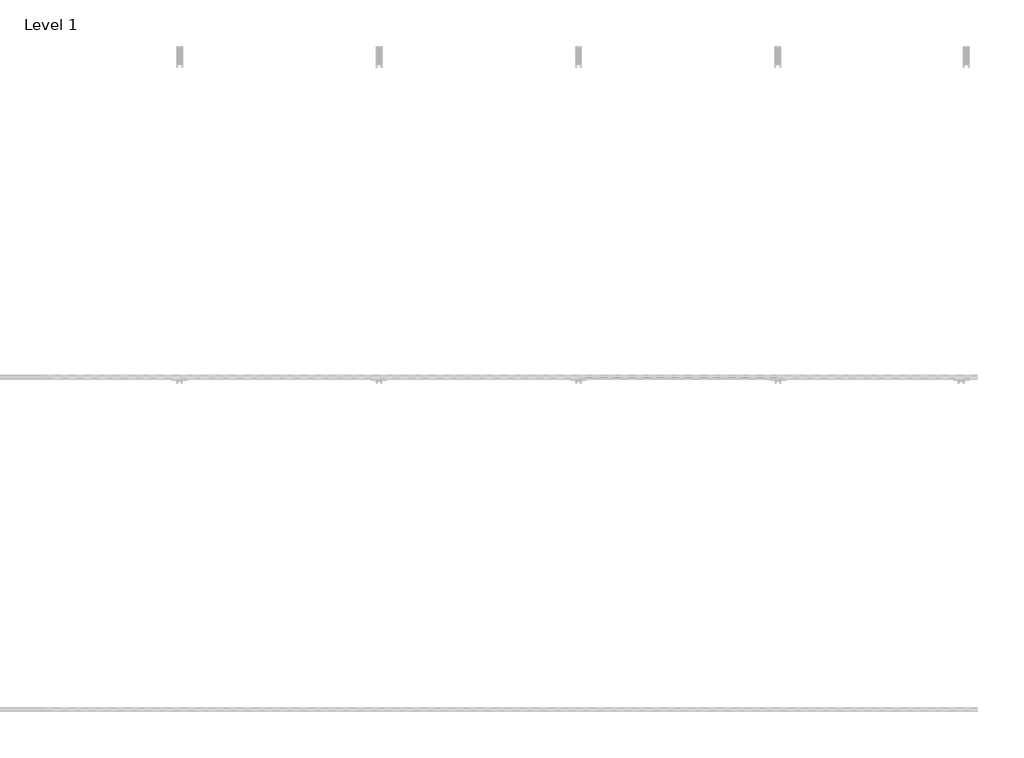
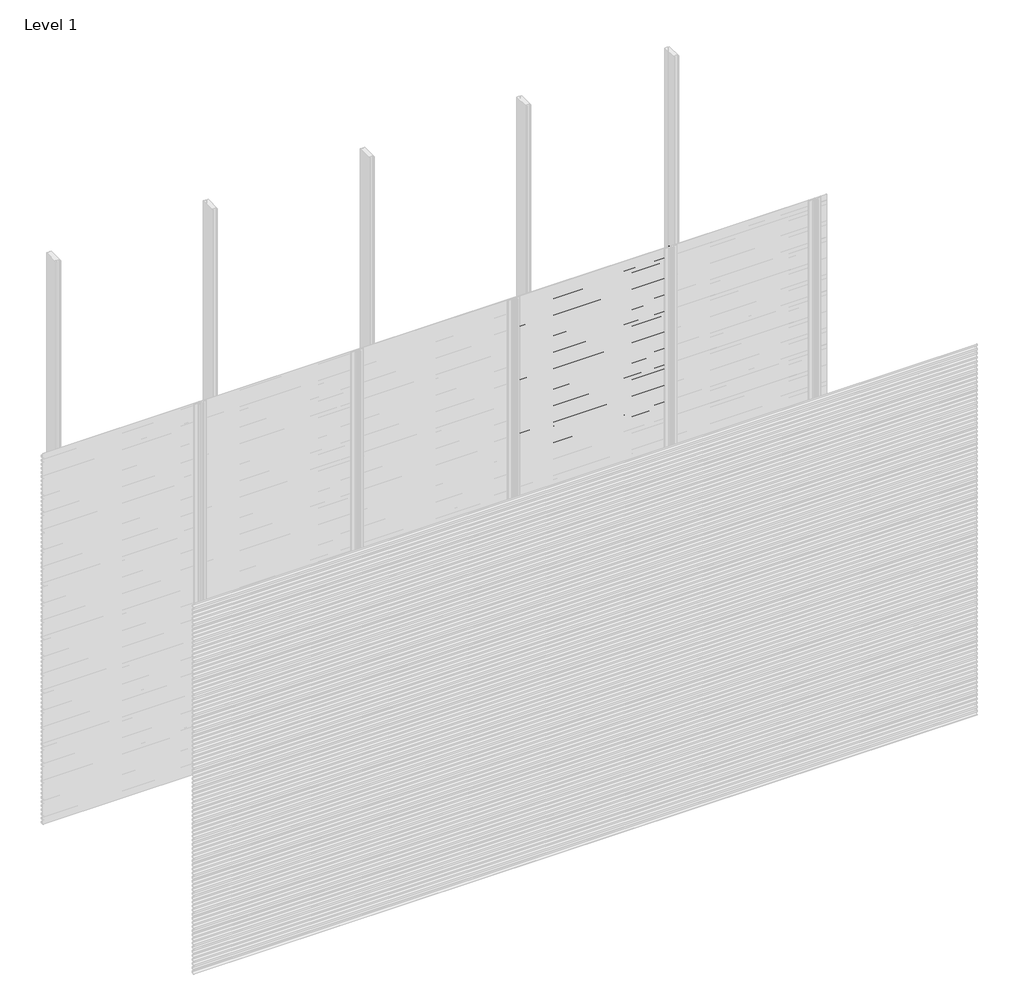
# One storey, part 8 of 77: 72 proxies.
"""IFC4 building model written with IfcOpenShell, lengths in millimetres."""

from ifc_helpers import new_model, si_unit, frame, origin, place, context, project, spatial, polyline, outline, extrude, element, save

model = new_model("IFC4")

# Units and contexts
model_context = context("Model", 3, world=origin())
ifc_project = project(units=[si_unit("LENGTHUNIT", "METRE", prefix="MILLI")], contexts=[model_context])

# Site, building, storey
site = spatial("IfcSite", under=ifc_project)
building = spatial("IfcBuilding", under=site)
storey = spatial("IfcBuildingStorey", under=building, Name="Level 1", Elevation=0.0)

# Proxies
placement = place(None, origin())
element("IfcBuildingElementProxy", 1, Name="Wall Sweeps", at=placement, inside=storey, context=model_context, shape_type="SweptSolid", body=[
    extrude(outline(polyline([(-53978.6, 1007.8359887), (-53998.0, 1019.0366691), (-53998.0, 1032.3), (-53997.0, 1032.3), (-53997.0, 1019.6191057), (-53977.6, 1008.4185105), (-53977.6, 994.8185105), (-53978.6, 996.3953129), (-53978.6, 1002.2032062), (-53995.9773817, 994.1), (-53996.4, 995.0063078), (-53978.6, 1003.3065841), (-53978.6, 1007.8359887)])), frame((2400.0, 0.0, 0.0), z_axis=(1.0, 0.0, 0.0), x_axis=(0.0, 1.0, 0.0)), (0.0, 0.0, 1.0), 1200.0),
])
element("IfcBuildingElementProxy", 2, Name="Wall Sweeps", at=placement, inside=storey, context=model_context, shape_type="SweptSolid", body=[
    extrude(outline(polyline([(-53978.6, 974.5359887), (-53998.0, 985.7366691), (-53998.0, 999.0), (-53997.0, 999.0), (-53997.0, 986.3191057), (-53977.6, 975.1185105), (-53977.6, 961.5185105), (-53978.6, 963.0953129), (-53978.6, 968.9032062), (-53995.9773817, 960.8), (-53996.4, 961.7063078), (-53978.6, 970.0065841), (-53978.6, 974.5359887)])), frame((2400.0, 0.0, 0.0), z_axis=(1.0, 0.0, 0.0), x_axis=(0.0, 1.0, 0.0)), (0.0, 0.0, 1.0), 1200.0),
])
element("IfcBuildingElementProxy", 3, Name="Wall Sweeps", at=placement, inside=storey, context=model_context, shape_type="SweptSolid", body=[
    extrude(outline(polyline([(-53978.6, 941.2359887), (-53998.0, 952.4366691), (-53998.0, 965.7), (-53997.0, 965.7), (-53997.0, 953.0191057), (-53977.6, 941.8185105), (-53977.6, 928.2185105), (-53978.6, 929.7953129), (-53978.6, 935.6032062), (-53995.9773817, 927.5), (-53996.4, 928.4063078), (-53978.6, 936.7065841), (-53978.6, 941.2359887)])), frame((2400.0, 0.0, 0.0), z_axis=(1.0, 0.0, 0.0), x_axis=(0.0, 1.0, 0.0)), (0.0, 0.0, 1.0), 1200.0),
])
element("IfcBuildingElementProxy", 4, Name="Wall Sweeps", at=placement, inside=storey, context=model_context, shape_type="SweptSolid", body=[
    extrude(outline(polyline([(-53978.6, 907.9359887), (-53998.0, 919.1366691), (-53998.0, 932.4), (-53997.0, 932.4), (-53997.0, 919.7191057), (-53977.6, 908.5185105), (-53977.6, 894.9185105), (-53978.6, 896.4953129), (-53978.6, 902.3032062), (-53995.9773817, 894.2), (-53996.4, 895.1063078), (-53978.6, 903.4065841), (-53978.6, 907.9359887)])), frame((2400.0, 0.0, 0.0), z_axis=(1.0, 0.0, 0.0), x_axis=(0.0, 1.0, 0.0)), (0.0, 0.0, 1.0), 1200.0),
])
element("IfcBuildingElementProxy", 5, Name="Wall Sweeps", at=placement, inside=storey, context=model_context, shape_type="SweptSolid", body=[
    extrude(outline(polyline([(-53978.6, 874.6359887), (-53998.0, 885.8366691), (-53998.0, 899.1), (-53997.0, 899.1), (-53997.0, 886.4191057), (-53977.6, 875.2185105), (-53977.6, 861.6185105), (-53978.6, 863.1953129), (-53978.6, 869.0032062), (-53995.9773817, 860.9), (-53996.4, 861.8063078), (-53978.6, 870.1065841), (-53978.6, 874.6359887)])), frame((2400.0, 0.0, 0.0), z_axis=(1.0, 0.0, 0.0), x_axis=(0.0, 1.0, 0.0)), (0.0, 0.0, 1.0), 1200.0),
])
element("IfcBuildingElementProxy", 6, Name="Wall Sweeps", at=placement, inside=storey, context=model_context, shape_type="SweptSolid", body=[
    extrude(outline(polyline([(-53978.6, 841.3359887), (-53998.0, 852.5366691), (-53998.0, 865.8), (-53997.0, 865.8), (-53997.0, 853.1191057), (-53977.6, 841.9185105), (-53977.6, 828.3185105), (-53978.6, 829.8953129), (-53978.6, 835.7032062), (-53995.9773817, 827.6), (-53996.4, 828.5063078), (-53978.6, 836.8065841), (-53978.6, 841.3359887)])), frame((2400.0, 0.0, 0.0), z_axis=(1.0, 0.0, 0.0), x_axis=(0.0, 1.0, 0.0)), (0.0, 0.0, 1.0), 1200.0),
])
element("IfcBuildingElementProxy", 7, Name="Wall Sweeps", at=placement, inside=storey, context=model_context, shape_type="SweptSolid", body=[
    extrude(outline(polyline([(-53978.6, 808.0359887), (-53998.0, 819.2366691), (-53998.0, 832.5), (-53997.0, 832.5), (-53997.0, 819.8191057), (-53977.6, 808.6185105), (-53977.6, 795.0185105), (-53978.6, 796.5953129), (-53978.6, 802.4032062), (-53995.9773817, 794.3), (-53996.4, 795.2063078), (-53978.6, 803.5065841), (-53978.6, 808.0359887)])), frame((2400.0, 0.0, 0.0), z_axis=(1.0, 0.0, 0.0), x_axis=(0.0, 1.0, 0.0)), (0.0, 0.0, 1.0), 1200.0),
])
element("IfcBuildingElementProxy", 8, Name="Wall Sweeps", at=placement, inside=storey, context=model_context, shape_type="SweptSolid", body=[
    extrude(outline(polyline([(-53978.6, 774.7359887), (-53998.0, 785.9366691), (-53998.0, 799.2), (-53997.0, 799.2), (-53997.0, 786.5191057), (-53977.6, 775.3185105), (-53977.6, 761.7185105), (-53978.6, 763.2953129), (-53978.6, 769.1032062), (-53995.9773817, 761.0), (-53996.4, 761.9063078), (-53978.6, 770.2065841), (-53978.6, 774.7359887)])), frame((2400.0, 0.0, 0.0), z_axis=(1.0, 0.0, 0.0), x_axis=(0.0, 1.0, 0.0)), (0.0, 0.0, 1.0), 1200.0),
])
element("IfcBuildingElementProxy", 9, Name="Wall Sweeps", at=placement, inside=storey, context=model_context, shape_type="SweptSolid", body=[
    extrude(outline(polyline([(-53978.6, 741.4359887), (-53998.0, 752.6366691), (-53998.0, 765.9), (-53997.0, 765.9), (-53997.0, 753.2191057), (-53977.6, 742.0185105), (-53977.6, 728.4185105), (-53978.6, 729.9953129), (-53978.6, 735.8032062), (-53995.9773817, 727.7), (-53996.4, 728.6063078), (-53978.6, 736.9065841), (-53978.6, 741.4359887)])), frame((2400.0, 0.0, 0.0), z_axis=(1.0, 0.0, 0.0), x_axis=(0.0, 1.0, 0.0)), (0.0, 0.0, 1.0), 1200.0),
])
element("IfcBuildingElementProxy", 10, Name="Wall Sweeps", at=placement, inside=storey, context=model_context, shape_type="SweptSolid", body=[
    extrude(outline(polyline([(-53978.6, 708.1359887), (-53998.0, 719.3366691), (-53998.0, 732.6), (-53997.0, 732.6), (-53997.0, 719.9191057), (-53977.6, 708.7185105), (-53977.6, 695.1185105), (-53978.6, 696.6953129), (-53978.6, 702.5032062), (-53995.9773817, 694.4), (-53996.4, 695.3063078), (-53978.6, 703.6065841), (-53978.6, 708.1359887)])), frame((2400.0, 0.0, 0.0), z_axis=(1.0, 0.0, 0.0), x_axis=(0.0, 1.0, 0.0)), (0.0, 0.0, 1.0), 1200.0),
])
element("IfcBuildingElementProxy", 11, Name="Wall Sweeps", at=placement, inside=storey, context=model_context, shape_type="SweptSolid", body=[
    extrude(outline(polyline([(-53978.6, 674.8359887), (-53998.0, 686.0366691), (-53998.0, 699.3), (-53997.0, 699.3), (-53997.0, 686.6191057), (-53977.6, 675.4185105), (-53977.6, 661.8185105), (-53978.6, 663.3953129), (-53978.6, 669.2032062), (-53995.9773817, 661.1), (-53996.4, 662.0063078), (-53978.6, 670.3065841), (-53978.6, 674.8359887)])), frame((2400.0, 0.0, 0.0), z_axis=(1.0, 0.0, 0.0), x_axis=(0.0, 1.0, 0.0)), (0.0, 0.0, 1.0), 1200.0),
])
element("IfcBuildingElementProxy", 12, Name="Wall Sweeps", at=placement, inside=storey, context=model_context, shape_type="SweptSolid", body=[
    extrude(outline(polyline([(-53978.6, 641.5359887), (-53998.0, 652.7366691), (-53998.0, 666.0), (-53997.0, 666.0), (-53997.0, 653.3191057), (-53977.6, 642.1185105), (-53977.6, 628.5185105), (-53978.6, 630.0953129), (-53978.6, 635.9032062), (-53995.9773817, 627.8), (-53996.4, 628.7063078), (-53978.6, 637.0065841), (-53978.6, 641.5359887)])), frame((2400.0, 0.0, 0.0), z_axis=(1.0, 0.0, 0.0), x_axis=(0.0, 1.0, 0.0)), (0.0, 0.0, 1.0), 1200.0),
])
element("IfcBuildingElementProxy", 13, Name="Wall Sweeps", at=placement, inside=storey, context=model_context, shape_type="SweptSolid", body=[
    extrude(outline(polyline([(-53978.6, 608.2359887), (-53998.0, 619.4366691), (-53998.0, 632.7), (-53997.0, 632.7), (-53997.0, 620.0191057), (-53977.6, 608.8185105), (-53977.6, 595.2185105), (-53978.6, 596.7953129), (-53978.6, 602.6032062), (-53995.9773817, 594.5), (-53996.4, 595.4063078), (-53978.6, 603.7065841), (-53978.6, 608.2359887)])), frame((2400.0, 0.0, 0.0), z_axis=(1.0, 0.0, 0.0), x_axis=(0.0, 1.0, 0.0)), (0.0, 0.0, 1.0), 1200.0),
])
element("IfcBuildingElementProxy", 14, Name="Wall Sweeps", at=placement, inside=storey, context=model_context, shape_type="SweptSolid", body=[
    extrude(outline(polyline([(-53978.6, 574.9359887), (-53998.0, 586.1366691), (-53998.0, 599.4), (-53997.0, 599.4), (-53997.0, 586.7191057), (-53977.6, 575.5185105), (-53977.6, 561.9185105), (-53978.6, 563.4953129), (-53978.6, 569.3032062), (-53995.9773817, 561.2), (-53996.4, 562.1063078), (-53978.6, 570.4065841), (-53978.6, 574.9359887)])), frame((2400.0, 0.0, 0.0), z_axis=(1.0, 0.0, 0.0), x_axis=(0.0, 1.0, 0.0)), (0.0, 0.0, 1.0), 1200.0),
])
element("IfcBuildingElementProxy", 15, Name="Wall Sweeps", at=placement, inside=storey, context=model_context, shape_type="SweptSolid", body=[
    extrude(outline(polyline([(-53978.6, 541.6359887), (-53998.0, 552.8366691), (-53998.0, 566.1), (-53997.0, 566.1), (-53997.0, 553.4191057), (-53977.6, 542.2185105), (-53977.6, 528.6185105), (-53978.6, 530.1953129), (-53978.6, 536.0032062), (-53995.9773817, 527.9), (-53996.4, 528.8063078), (-53978.6, 537.1065841), (-53978.6, 541.6359887)])), frame((2400.0, 0.0, 0.0), z_axis=(1.0, 0.0, 0.0), x_axis=(0.0, 1.0, 0.0)), (0.0, 0.0, 1.0), 1200.0),
])
element("IfcBuildingElementProxy", 16, Name="Wall Sweeps", at=placement, inside=storey, context=model_context, shape_type="SweptSolid", body=[
    extrude(outline(polyline([(-53978.6, 508.3359887), (-53998.0, 519.5366691), (-53998.0, 532.8), (-53997.0, 532.8), (-53997.0, 520.1191057), (-53977.6, 508.9185105), (-53977.6, 495.3185105), (-53978.6, 496.8953129), (-53978.6, 502.7032062), (-53995.9773817, 494.6), (-53996.4, 495.5063078), (-53978.6, 503.8065841), (-53978.6, 508.3359887)])), frame((2400.0, 0.0, 0.0), z_axis=(1.0, 0.0, 0.0), x_axis=(0.0, 1.0, 0.0)), (0.0, 0.0, 1.0), 1200.0),
])
element("IfcBuildingElementProxy", 17, Name="Wall Sweeps", at=placement, inside=storey, context=model_context, shape_type="SweptSolid", body=[
    extrude(outline(polyline([(-53978.6, 475.0359887), (-53998.0, 486.2366691), (-53998.0, 499.5), (-53997.0, 499.5), (-53997.0, 486.8191057), (-53977.6, 475.6185105), (-53977.6, 462.0185105), (-53978.6, 463.5953129), (-53978.6, 469.4032062), (-53995.9773817, 461.3), (-53996.4, 462.2063078), (-53978.6, 470.5065841), (-53978.6, 475.0359887)])), frame((2400.0, 0.0, 0.0), z_axis=(1.0, 0.0, 0.0), x_axis=(0.0, 1.0, 0.0)), (0.0, 0.0, 1.0), 1200.0),
])
element("IfcBuildingElementProxy", 18, Name="Wall Sweeps", at=placement, inside=storey, context=model_context, shape_type="SweptSolid", body=[
    extrude(outline(polyline([(-53978.6, 441.7359887), (-53998.0, 452.9366691), (-53998.0, 466.2), (-53997.0, 466.2), (-53997.0, 453.5191057), (-53977.6, 442.3185105), (-53977.6, 428.7185105), (-53978.6, 430.2953129), (-53978.6, 436.1032062), (-53995.9773817, 428.0), (-53996.4, 428.9063078), (-53978.6, 437.2065841), (-53978.6, 441.7359887)])), frame((2400.0, 0.0, 0.0), z_axis=(1.0, 0.0, 0.0), x_axis=(0.0, 1.0, 0.0)), (0.0, 0.0, 1.0), 1200.0),
])
element("IfcBuildingElementProxy", 19, Name="Wall Sweeps", at=placement, inside=storey, context=model_context, shape_type="SweptSolid", body=[
    extrude(outline(polyline([(-53978.6, 408.4359887), (-53998.0, 419.6366691), (-53998.0, 432.9), (-53997.0, 432.9), (-53997.0, 420.2191057), (-53977.6, 409.0185105), (-53977.6, 395.4185105), (-53978.6, 396.9953129), (-53978.6, 402.8032062), (-53995.9773817, 394.7), (-53996.4, 395.6063078), (-53978.6, 403.9065841), (-53978.6, 408.4359887)])), frame((2400.0, 0.0, 0.0), z_axis=(1.0, 0.0, 0.0), x_axis=(0.0, 1.0, 0.0)), (0.0, 0.0, 1.0), 1200.0),
])
element("IfcBuildingElementProxy", 20, Name="Wall Sweeps", at=placement, inside=storey, context=model_context, shape_type="SweptSolid", body=[
    extrude(outline(polyline([(-53978.6, 375.1359887), (-53998.0, 386.3366691), (-53998.0, 399.6), (-53997.0, 399.6), (-53997.0, 386.9191057), (-53977.6, 375.7185105), (-53977.6, 362.1185105), (-53978.6, 363.6953129), (-53978.6, 369.5032062), (-53995.9773817, 361.4), (-53996.4, 362.3063078), (-53978.6, 370.6065841), (-53978.6, 375.1359887)])), frame((2400.0, 0.0, 0.0), z_axis=(1.0, 0.0, 0.0), x_axis=(0.0, 1.0, 0.0)), (0.0, 0.0, 1.0), 1200.0),
])
element("IfcBuildingElementProxy", 21, Name="Wall Sweeps", at=placement, inside=storey, context=model_context, shape_type="SweptSolid", body=[
    extrude(outline(polyline([(-53978.6, 341.8359887), (-53998.0, 353.0366691), (-53998.0, 366.3), (-53997.0, 366.3), (-53997.0, 353.6191057), (-53977.6, 342.4185105), (-53977.6, 328.8185105), (-53978.6, 330.3953129), (-53978.6, 336.2032062), (-53995.9773817, 328.1), (-53996.4, 329.0063078), (-53978.6, 337.3065841), (-53978.6, 341.8359887)])), frame((2400.0, 0.0, 0.0), z_axis=(1.0, 0.0, 0.0), x_axis=(0.0, 1.0, 0.0)), (0.0, 0.0, 1.0), 1200.0),
])
element("IfcBuildingElementProxy", 22, Name="Wall Sweeps", at=placement, inside=storey, context=model_context, shape_type="SweptSolid", body=[
    extrude(outline(polyline([(-53978.6, 308.5359887), (-53998.0, 319.7366691), (-53998.0, 333.0), (-53997.0, 333.0), (-53997.0, 320.3191057), (-53977.6, 309.1185105), (-53977.6, 295.5185105), (-53978.6, 297.0953129), (-53978.6, 302.9032062), (-53995.9773817, 294.8), (-53996.4, 295.7063078), (-53978.6, 304.0065841), (-53978.6, 308.5359887)])), frame((2400.0, 0.0, 0.0), z_axis=(1.0, 0.0, 0.0), x_axis=(0.0, 1.0, 0.0)), (0.0, 0.0, 1.0), 1200.0),
])
element("IfcBuildingElementProxy", 23, Name="Wall Sweeps", at=placement, inside=storey, context=model_context, shape_type="SweptSolid", body=[
    extrude(outline(polyline([(-53978.6, 275.2359887), (-53998.0, 286.4366691), (-53998.0, 299.7), (-53997.0, 299.7), (-53997.0, 287.0191057), (-53977.6, 275.8185105), (-53977.6, 262.2185105), (-53978.6, 263.7953129), (-53978.6, 269.6032062), (-53995.9773817, 261.5), (-53996.4, 262.4063078), (-53978.6, 270.7065841), (-53978.6, 275.2359887)])), frame((2400.0, 0.0, 0.0), z_axis=(1.0, 0.0, 0.0), x_axis=(0.0, 1.0, 0.0)), (0.0, 0.0, 1.0), 1200.0),
])
element("IfcBuildingElementProxy", 24, Name="Wall Sweeps", at=placement, inside=storey, context=model_context, shape_type="SweptSolid", body=[
    extrude(outline(polyline([(-53978.6, 241.9359887), (-53998.0, 253.1366691), (-53998.0, 266.4), (-53997.0, 266.4), (-53997.0, 253.7191057), (-53977.6, 242.5185105), (-53977.6, 228.9185105), (-53978.6, 230.4953129), (-53978.6, 236.3032062), (-53995.9773817, 228.2), (-53996.4, 229.1063078), (-53978.6, 237.4065841), (-53978.6, 241.9359887)])), frame((2400.0, 0.0, 0.0), z_axis=(1.0, 0.0, 0.0), x_axis=(0.0, 1.0, 0.0)), (0.0, 0.0, 1.0), 1200.0),
])
element("IfcBuildingElementProxy", 25, Name="Wall Sweeps", at=placement, inside=storey, context=model_context, shape_type="SweptSolid", body=[
    extrude(outline(polyline([(-53978.6, 208.6359887), (-53998.0, 219.8366691), (-53998.0, 233.1), (-53997.0, 233.1), (-53997.0, 220.4191057), (-53977.6, 209.2185105), (-53977.6, 195.6185105), (-53978.6, 197.1953129), (-53978.6, 203.0032062), (-53995.9773817, 194.9), (-53996.4, 195.8063078), (-53978.6, 204.1065841), (-53978.6, 208.6359887)])), frame((2400.0, 0.0, 0.0), z_axis=(1.0, 0.0, 0.0), x_axis=(0.0, 1.0, 0.0)), (0.0, 0.0, 1.0), 1200.0),
])
element("IfcBuildingElementProxy", 26, Name="Wall Sweeps", at=placement, inside=storey, context=model_context, shape_type="SweptSolid", body=[
    extrude(outline(polyline([(-53978.6, 175.3359887), (-53998.0, 186.5366691), (-53998.0, 199.8), (-53997.0, 199.8), (-53997.0, 187.1191057), (-53977.6, 175.9185105), (-53977.6, 162.3185105), (-53978.6, 163.8953129), (-53978.6, 169.7032062), (-53995.9773817, 161.6), (-53996.4, 162.5063078), (-53978.6, 170.8065841), (-53978.6, 175.3359887)])), frame((2400.0, 0.0, 0.0), z_axis=(1.0, 0.0, 0.0), x_axis=(0.0, 1.0, 0.0)), (0.0, 0.0, 1.0), 1200.0),
])
element("IfcBuildingElementProxy", 27, Name="Wall Sweeps", at=placement, inside=storey, context=model_context, shape_type="SweptSolid", body=[
    extrude(outline(polyline([(-53978.6, 142.0359887), (-53998.0, 153.2366691), (-53998.0, 166.5), (-53997.0, 166.5), (-53997.0, 153.8191057), (-53977.6, 142.6185105), (-53977.6, 129.0185105), (-53978.6, 130.5953129), (-53978.6, 136.4032062), (-53995.9773817, 128.3), (-53996.4, 129.2063078), (-53978.6, 137.5065841), (-53978.6, 142.0359887)])), frame((2400.0, 0.0, 0.0), z_axis=(1.0, 0.0, 0.0), x_axis=(0.0, 1.0, 0.0)), (0.0, 0.0, 1.0), 1200.0),
])
element("IfcBuildingElementProxy", 28, Name="Wall Sweeps", at=placement, inside=storey, context=model_context, shape_type="SweptSolid", body=[
    extrude(outline(polyline([(-53978.6, 108.7359887), (-53998.0, 119.9366691), (-53998.0, 133.2), (-53997.0, 133.2), (-53997.0, 120.5191057), (-53977.6, 109.3185105), (-53977.6, 95.7185105), (-53978.6, 97.2953129), (-53978.6, 103.1032062), (-53995.9773817, 95.0), (-53996.4, 95.9063078), (-53978.6, 104.2065841), (-53978.6, 108.7359887)])), frame((2400.0, 0.0, 0.0), z_axis=(1.0, 0.0, 0.0), x_axis=(0.0, 1.0, 0.0)), (0.0, 0.0, 1.0), 1200.0),
])
element("IfcBuildingElementProxy", 29, Name="Wall Sweeps", at=placement, inside=storey, context=model_context, shape_type="SweptSolid", body=[
    extrude(outline(polyline([(-53978.6, 75.4359887), (-53998.0, 86.6366691), (-53998.0, 99.9), (-53997.0, 99.9), (-53997.0, 87.2191057), (-53977.6, 76.0185105), (-53977.6, 62.4185105), (-53978.6, 63.9953129), (-53978.6, 69.8032062), (-53995.9773817, 61.7), (-53996.4, 62.6063078), (-53978.6, 70.9065841), (-53978.6, 75.4359887)])), frame((2400.0, 0.0, 0.0), z_axis=(1.0, 0.0, 0.0), x_axis=(0.0, 1.0, 0.0)), (0.0, 0.0, 1.0), 1200.0),
])
element("IfcBuildingElementProxy", 30, Name="Wall Sweeps", at=placement, inside=storey, context=model_context, shape_type="SweptSolid", body=[
    extrude(outline(polyline([(-53978.6, 42.1359887), (-53998.0, 53.3366691), (-53998.0, 66.6), (-53997.0, 66.6), (-53997.0, 53.9191057), (-53977.6, 42.7185105), (-53977.6, 29.1185105), (-53978.6, 30.6953129), (-53978.6, 36.5032062), (-53995.9773817, 28.4), (-53996.4, 29.3063078), (-53978.6, 37.6065841), (-53978.6, 42.1359887)])), frame((2400.0, 0.0, 0.0), z_axis=(1.0, 0.0, 0.0), x_axis=(0.0, 1.0, 0.0)), (0.0, 0.0, 1.0), 1200.0),
])
element("IfcBuildingElementProxy", 31, Name="Wall Sweeps", at=placement, inside=storey, context=model_context, shape_type="SweptSolid", body=[
    extrude(outline(polyline([(-53978.6, 8.8359887), (-53998.0, 20.0366691), (-53998.0, 33.3), (-53997.0, 33.3), (-53997.0, 20.6191057), (-53977.6, 9.4185105), (-53977.6, -4.1814895), (-53978.6, -2.6046871), (-53978.6, 3.2032062), (-53995.9773817, -4.9), (-53996.4, -3.9936922), (-53978.6, 4.3065841), (-53978.6, 8.8359887)])), frame((2400.0, 0.0, 0.0), z_axis=(1.0, 0.0, 0.0), x_axis=(0.0, 1.0, 0.0)), (0.0, 0.0, 1.0), 1200.0),
])
element("IfcBuildingElementProxy", 32, Name="Wall Sweeps", at=placement, inside=storey, context=model_context, shape_type="SweptSolid", body=[
    extrude(outline(polyline([(-53978.6, 2972.5359887), (-53998.0, 2983.7366691), (-53998.0, 2997.0), (-53997.0, 2997.0), (-53997.0, 2984.3191057), (-53977.6, 2973.1185105), (-53977.6, 2959.5185105), (-53978.6, 2961.0953129), (-53978.6, 2966.9032062), (-53995.9773817, 2958.8), (-53996.4, 2959.7063078), (-53978.6, 2968.0065841), (-53978.6, 2972.5359887)])), frame((3600.0, 0.0, 0.0), z_axis=(1.0, 0.0, 0.0), x_axis=(0.0, 1.0, 0.0)), (0.0, 0.0, 1.0), 1200.0),
])
element("IfcBuildingElementProxy", 33, Name="Wall Sweeps", at=placement, inside=storey, context=model_context, shape_type="SweptSolid", body=[
    extrude(outline(polyline([(-53978.6, 2939.2359887), (-53998.0, 2950.4366691), (-53998.0, 2963.7), (-53997.0, 2963.7), (-53997.0, 2951.0191057), (-53977.6, 2939.8185105), (-53977.6, 2926.2185105), (-53978.6, 2927.7953129), (-53978.6, 2933.6032062), (-53995.9773817, 2925.5), (-53996.4, 2926.4063078), (-53978.6, 2934.7065841), (-53978.6, 2939.2359887)])), frame((3600.0, 0.0, 0.0), z_axis=(1.0, 0.0, 0.0), x_axis=(0.0, 1.0, 0.0)), (0.0, 0.0, 1.0), 1200.0),
])
element("IfcBuildingElementProxy", 34, Name="Wall Sweeps", at=placement, inside=storey, context=model_context, shape_type="SweptSolid", body=[
    extrude(outline(polyline([(-53978.6, 2905.9359887), (-53998.0, 2917.1366691), (-53998.0, 2930.4), (-53997.0, 2930.4), (-53997.0, 2917.7191057), (-53977.6, 2906.5185105), (-53977.6, 2892.9185105), (-53978.6, 2894.4953129), (-53978.6, 2900.3032062), (-53995.9773817, 2892.2), (-53996.4, 2893.1063078), (-53978.6, 2901.4065841), (-53978.6, 2905.9359887)])), frame((3600.0, 0.0, 0.0), z_axis=(1.0, 0.0, 0.0), x_axis=(0.0, 1.0, 0.0)), (0.0, 0.0, 1.0), 1200.0),
])
element("IfcBuildingElementProxy", 35, Name="Wall Sweeps", at=placement, inside=storey, context=model_context, shape_type="SweptSolid", body=[
    extrude(outline(polyline([(-53978.6, 2872.6359887), (-53998.0, 2883.8366691), (-53998.0, 2897.1), (-53997.0, 2897.1), (-53997.0, 2884.4191057), (-53977.6, 2873.2185105), (-53977.6, 2859.6185105), (-53978.6, 2861.1953129), (-53978.6, 2867.0032062), (-53995.9773817, 2858.9), (-53996.4, 2859.8063078), (-53978.6, 2868.1065841), (-53978.6, 2872.6359887)])), frame((3600.0, 0.0, 0.0), z_axis=(1.0, 0.0, 0.0), x_axis=(0.0, 1.0, 0.0)), (0.0, 0.0, 1.0), 1200.0),
])
element("IfcBuildingElementProxy", 36, Name="Wall Sweeps", at=placement, inside=storey, context=model_context, shape_type="SweptSolid", body=[
    extrude(outline(polyline([(-53978.6, 2839.3359887), (-53998.0, 2850.5366691), (-53998.0, 2863.8), (-53997.0, 2863.8), (-53997.0, 2851.1191057), (-53977.6, 2839.9185105), (-53977.6, 2826.3185105), (-53978.6, 2827.8953129), (-53978.6, 2833.7032062), (-53995.9773817, 2825.6), (-53996.4, 2826.5063078), (-53978.6, 2834.8065841), (-53978.6, 2839.3359887)])), frame((3600.0, 0.0, 0.0), z_axis=(1.0, 0.0, 0.0), x_axis=(0.0, 1.0, 0.0)), (0.0, 0.0, 1.0), 1200.0),
])
element("IfcBuildingElementProxy", 37, Name="Wall Sweeps", at=placement, inside=storey, context=model_context, shape_type="SweptSolid", body=[
    extrude(outline(polyline([(-53978.6, 2806.0359887), (-53998.0, 2817.2366691), (-53998.0, 2830.5), (-53997.0, 2830.5), (-53997.0, 2817.8191057), (-53977.6, 2806.6185105), (-53977.6, 2793.0185105), (-53978.6, 2794.5953129), (-53978.6, 2800.4032062), (-53995.9773817, 2792.3), (-53996.4, 2793.2063078), (-53978.6, 2801.5065841), (-53978.6, 2806.0359887)])), frame((3600.0, 0.0, 0.0), z_axis=(1.0, 0.0, 0.0), x_axis=(0.0, 1.0, 0.0)), (0.0, 0.0, 1.0), 1200.0),
])
element("IfcBuildingElementProxy", 38, Name="Wall Sweeps", at=placement, inside=storey, context=model_context, shape_type="SweptSolid", body=[
    extrude(outline(polyline([(-53978.6, 2772.7359887), (-53998.0, 2783.9366691), (-53998.0, 2797.2), (-53997.0, 2797.2), (-53997.0, 2784.5191057), (-53977.6, 2773.3185105), (-53977.6, 2759.7185105), (-53978.6, 2761.2953129), (-53978.6, 2767.1032062), (-53995.9773817, 2759.0), (-53996.4, 2759.9063078), (-53978.6, 2768.2065841), (-53978.6, 2772.7359887)])), frame((3600.0, 0.0, 0.0), z_axis=(1.0, 0.0, 0.0), x_axis=(0.0, 1.0, 0.0)), (0.0, 0.0, 1.0), 1200.0),
])
element("IfcBuildingElementProxy", 39, Name="Wall Sweeps", at=placement, inside=storey, context=model_context, shape_type="SweptSolid", body=[
    extrude(outline(polyline([(-53978.6, 2739.4359887), (-53998.0, 2750.6366691), (-53998.0, 2763.9), (-53997.0, 2763.9), (-53997.0, 2751.2191057), (-53977.6, 2740.0185105), (-53977.6, 2726.4185105), (-53978.6, 2727.9953129), (-53978.6, 2733.8032062), (-53995.9773817, 2725.7), (-53996.4, 2726.6063078), (-53978.6, 2734.9065841), (-53978.6, 2739.4359887)])), frame((3600.0, 0.0, 0.0), z_axis=(1.0, 0.0, 0.0), x_axis=(0.0, 1.0, 0.0)), (0.0, 0.0, 1.0), 1200.0),
])
element("IfcBuildingElementProxy", 40, Name="Wall Sweeps", at=placement, inside=storey, context=model_context, shape_type="SweptSolid", body=[
    extrude(outline(polyline([(-53978.6, 2706.1359887), (-53998.0, 2717.3366691), (-53998.0, 2730.6), (-53997.0, 2730.6), (-53997.0, 2717.9191057), (-53977.6, 2706.7185105), (-53977.6, 2693.1185105), (-53978.6, 2694.6953129), (-53978.6, 2700.5032062), (-53995.9773817, 2692.4), (-53996.4, 2693.3063078), (-53978.6, 2701.6065841), (-53978.6, 2706.1359887)])), frame((3600.0, 0.0, 0.0), z_axis=(1.0, 0.0, 0.0), x_axis=(0.0, 1.0, 0.0)), (0.0, 0.0, 1.0), 1200.0),
])
element("IfcBuildingElementProxy", 41, Name="Wall Sweeps", at=placement, inside=storey, context=model_context, shape_type="SweptSolid", body=[
    extrude(outline(polyline([(-53978.6, 2672.8359887), (-53998.0, 2684.0366691), (-53998.0, 2697.3), (-53997.0, 2697.3), (-53997.0, 2684.6191057), (-53977.6, 2673.4185105), (-53977.6, 2659.8185105), (-53978.6, 2661.3953129), (-53978.6, 2667.2032062), (-53995.9773817, 2659.1), (-53996.4, 2660.0063078), (-53978.6, 2668.3065841), (-53978.6, 2672.8359887)])), frame((3600.0, 0.0, 0.0), z_axis=(1.0, 0.0, 0.0), x_axis=(0.0, 1.0, 0.0)), (0.0, 0.0, 1.0), 1200.0),
])
element("IfcBuildingElementProxy", 42, Name="Wall Sweeps", at=placement, inside=storey, context=model_context, shape_type="SweptSolid", body=[
    extrude(outline(polyline([(-53978.6, 2639.5359887), (-53998.0, 2650.7366691), (-53998.0, 2664.0), (-53997.0, 2664.0), (-53997.0, 2651.3191057), (-53977.6, 2640.1185105), (-53977.6, 2626.5185105), (-53978.6, 2628.0953129), (-53978.6, 2633.9032062), (-53995.9773817, 2625.8), (-53996.4, 2626.7063078), (-53978.6, 2635.0065841), (-53978.6, 2639.5359887)])), frame((3600.0, 0.0, 0.0), z_axis=(1.0, 0.0, 0.0), x_axis=(0.0, 1.0, 0.0)), (0.0, 0.0, 1.0), 1200.0),
])
element("IfcBuildingElementProxy", 43, Name="Wall Sweeps", at=placement, inside=storey, context=model_context, shape_type="SweptSolid", body=[
    extrude(outline(polyline([(-53978.6, 2606.2359887), (-53998.0, 2617.4366691), (-53998.0, 2630.7), (-53997.0, 2630.7), (-53997.0, 2618.0191057), (-53977.6, 2606.8185105), (-53977.6, 2593.2185105), (-53978.6, 2594.7953129), (-53978.6, 2600.6032062), (-53995.9773817, 2592.5), (-53996.4, 2593.4063078), (-53978.6, 2601.7065841), (-53978.6, 2606.2359887)])), frame((3600.0, 0.0, 0.0), z_axis=(1.0, 0.0, 0.0), x_axis=(0.0, 1.0, 0.0)), (0.0, 0.0, 1.0), 1200.0),
])
element("IfcBuildingElementProxy", 44, Name="Wall Sweeps", at=placement, inside=storey, context=model_context, shape_type="SweptSolid", body=[
    extrude(outline(polyline([(-53978.6, 2572.9359887), (-53998.0, 2584.1366691), (-53998.0, 2597.4), (-53997.0, 2597.4), (-53997.0, 2584.7191057), (-53977.6, 2573.5185105), (-53977.6, 2559.9185105), (-53978.6, 2561.4953129), (-53978.6, 2567.3032062), (-53995.9773817, 2559.2), (-53996.4, 2560.1063078), (-53978.6, 2568.4065841), (-53978.6, 2572.9359887)])), frame((3600.0, 0.0, 0.0), z_axis=(1.0, 0.0, 0.0), x_axis=(0.0, 1.0, 0.0)), (0.0, 0.0, 1.0), 1200.0),
])
element("IfcBuildingElementProxy", 45, Name="Wall Sweeps", at=placement, inside=storey, context=model_context, shape_type="SweptSolid", body=[
    extrude(outline(polyline([(-53978.6, 2539.6359887), (-53998.0, 2550.8366691), (-53998.0, 2564.1), (-53997.0, 2564.1), (-53997.0, 2551.4191057), (-53977.6, 2540.2185105), (-53977.6, 2526.6185105), (-53978.6, 2528.1953129), (-53978.6, 2534.0032062), (-53995.9773817, 2525.9), (-53996.4, 2526.8063078), (-53978.6, 2535.1065841), (-53978.6, 2539.6359887)])), frame((3600.0, 0.0, 0.0), z_axis=(1.0, 0.0, 0.0), x_axis=(0.0, 1.0, 0.0)), (0.0, 0.0, 1.0), 1200.0),
])
element("IfcBuildingElementProxy", 46, Name="Wall Sweeps", at=placement, inside=storey, context=model_context, shape_type="SweptSolid", body=[
    extrude(outline(polyline([(-53978.6, 2506.3359887), (-53998.0, 2517.5366691), (-53998.0, 2530.8), (-53997.0, 2530.8), (-53997.0, 2518.1191057), (-53977.6, 2506.9185105), (-53977.6, 2493.3185105), (-53978.6, 2494.8953129), (-53978.6, 2500.7032062), (-53995.9773817, 2492.6), (-53996.4, 2493.5063078), (-53978.6, 2501.8065841), (-53978.6, 2506.3359887)])), frame((3600.0, 0.0, 0.0), z_axis=(1.0, 0.0, 0.0), x_axis=(0.0, 1.0, 0.0)), (0.0, 0.0, 1.0), 1200.0),
])
element("IfcBuildingElementProxy", 47, Name="Wall Sweeps", at=placement, inside=storey, context=model_context, shape_type="SweptSolid", body=[
    extrude(outline(polyline([(-53978.6, 2473.0359887), (-53998.0, 2484.2366691), (-53998.0, 2497.5), (-53997.0, 2497.5), (-53997.0, 2484.8191057), (-53977.6, 2473.6185105), (-53977.6, 2460.0185105), (-53978.6, 2461.5953129), (-53978.6, 2467.4032062), (-53995.9773817, 2459.3), (-53996.4, 2460.2063078), (-53978.6, 2468.5065841), (-53978.6, 2473.0359887)])), frame((3600.0, 0.0, 0.0), z_axis=(1.0, 0.0, 0.0), x_axis=(0.0, 1.0, 0.0)), (0.0, 0.0, 1.0), 1200.0),
])
element("IfcBuildingElementProxy", 48, Name="Wall Sweeps", at=placement, inside=storey, context=model_context, shape_type="SweptSolid", body=[
    extrude(outline(polyline([(-53978.6, 2439.7359887), (-53998.0, 2450.9366691), (-53998.0, 2464.2), (-53997.0, 2464.2), (-53997.0, 2451.5191057), (-53977.6, 2440.3185105), (-53977.6, 2426.7185105), (-53978.6, 2428.2953129), (-53978.6, 2434.1032062), (-53995.9773817, 2426.0), (-53996.4, 2426.9063078), (-53978.6, 2435.2065841), (-53978.6, 2439.7359887)])), frame((3600.0, 0.0, 0.0), z_axis=(1.0, 0.0, 0.0), x_axis=(0.0, 1.0, 0.0)), (0.0, 0.0, 1.0), 1200.0),
])
element("IfcBuildingElementProxy", 49, Name="Wall Sweeps", at=placement, inside=storey, context=model_context, shape_type="SweptSolid", body=[
    extrude(outline(polyline([(-53978.6, 2406.4359887), (-53998.0, 2417.6366691), (-53998.0, 2430.9), (-53997.0, 2430.9), (-53997.0, 2418.2191057), (-53977.6, 2407.0185105), (-53977.6, 2393.4185105), (-53978.6, 2394.9953129), (-53978.6, 2400.8032062), (-53995.9773817, 2392.7), (-53996.4, 2393.6063078), (-53978.6, 2401.9065841), (-53978.6, 2406.4359887)])), frame((3600.0, 0.0, 0.0), z_axis=(1.0, 0.0, 0.0), x_axis=(0.0, 1.0, 0.0)), (0.0, 0.0, 1.0), 1200.0),
])
element("IfcBuildingElementProxy", 50, Name="Wall Sweeps", at=placement, inside=storey, context=model_context, shape_type="SweptSolid", body=[
    extrude(outline(polyline([(-53978.6, 2373.1359887), (-53998.0, 2384.3366691), (-53998.0, 2397.6), (-53997.0, 2397.6), (-53997.0, 2384.9191057), (-53977.6, 2373.7185105), (-53977.6, 2360.1185105), (-53978.6, 2361.6953129), (-53978.6, 2367.5032062), (-53995.9773817, 2359.4), (-53996.4, 2360.3063078), (-53978.6, 2368.6065841), (-53978.6, 2373.1359887)])), frame((3600.0, 0.0, 0.0), z_axis=(1.0, 0.0, 0.0), x_axis=(0.0, 1.0, 0.0)), (0.0, 0.0, 1.0), 1200.0),
])
element("IfcBuildingElementProxy", 51, Name="Wall Sweeps", at=placement, inside=storey, context=model_context, shape_type="SweptSolid", body=[
    extrude(outline(polyline([(-53978.6, 2339.8359887), (-53998.0, 2351.0366691), (-53998.0, 2364.3), (-53997.0, 2364.3), (-53997.0, 2351.6191057), (-53977.6, 2340.4185105), (-53977.6, 2326.8185105), (-53978.6, 2328.3953129), (-53978.6, 2334.2032062), (-53995.9773817, 2326.1), (-53996.4, 2327.0063078), (-53978.6, 2335.3065841), (-53978.6, 2339.8359887)])), frame((3600.0, 0.0, 0.0), z_axis=(1.0, 0.0, 0.0), x_axis=(0.0, 1.0, 0.0)), (0.0, 0.0, 1.0), 1200.0),
])
element("IfcBuildingElementProxy", 52, Name="Wall Sweeps", at=placement, inside=storey, context=model_context, shape_type="SweptSolid", body=[
    extrude(outline(polyline([(-53978.6, 2306.5359887), (-53998.0, 2317.7366691), (-53998.0, 2331.0), (-53997.0, 2331.0), (-53997.0, 2318.3191057), (-53977.6, 2307.1185105), (-53977.6, 2293.5185105), (-53978.6, 2295.0953129), (-53978.6, 2300.9032062), (-53995.9773817, 2292.8), (-53996.4, 2293.7063078), (-53978.6, 2302.0065841), (-53978.6, 2306.5359887)])), frame((3600.0, 0.0, 0.0), z_axis=(1.0, 0.0, 0.0), x_axis=(0.0, 1.0, 0.0)), (0.0, 0.0, 1.0), 1200.0),
])
element("IfcBuildingElementProxy", 53, Name="Wall Sweeps", at=placement, inside=storey, context=model_context, shape_type="SweptSolid", body=[
    extrude(outline(polyline([(-53978.6, 2273.2359887), (-53998.0, 2284.4366691), (-53998.0, 2297.7), (-53997.0, 2297.7), (-53997.0, 2285.0191057), (-53977.6, 2273.8185105), (-53977.6, 2260.2185105), (-53978.6, 2261.7953129), (-53978.6, 2267.6032062), (-53995.9773817, 2259.5), (-53996.4, 2260.4063078), (-53978.6, 2268.7065841), (-53978.6, 2273.2359887)])), frame((3600.0, 0.0, 0.0), z_axis=(1.0, 0.0, 0.0), x_axis=(0.0, 1.0, 0.0)), (0.0, 0.0, 1.0), 1200.0),
])
element("IfcBuildingElementProxy", 54, Name="Wall Sweeps", at=placement, inside=storey, context=model_context, shape_type="SweptSolid", body=[
    extrude(outline(polyline([(-53978.6, 2239.9359887), (-53998.0, 2251.1366691), (-53998.0, 2264.4), (-53997.0, 2264.4), (-53997.0, 2251.7191057), (-53977.6, 2240.5185105), (-53977.6, 2226.9185105), (-53978.6, 2228.4953129), (-53978.6, 2234.3032062), (-53995.9773817, 2226.2), (-53996.4, 2227.1063078), (-53978.6, 2235.4065841), (-53978.6, 2239.9359887)])), frame((3600.0, 0.0, 0.0), z_axis=(1.0, 0.0, 0.0), x_axis=(0.0, 1.0, 0.0)), (0.0, 0.0, 1.0), 1200.0),
])
element("IfcBuildingElementProxy", 55, Name="Wall Sweeps", at=placement, inside=storey, context=model_context, shape_type="SweptSolid", body=[
    extrude(outline(polyline([(-53978.6, 2206.6359887), (-53998.0, 2217.8366691), (-53998.0, 2231.1), (-53997.0, 2231.1), (-53997.0, 2218.4191057), (-53977.6, 2207.2185105), (-53977.6, 2193.6185105), (-53978.6, 2195.1953129), (-53978.6, 2201.0032062), (-53995.9773817, 2192.9), (-53996.4, 2193.8063078), (-53978.6, 2202.1065841), (-53978.6, 2206.6359887)])), frame((3600.0, 0.0, 0.0), z_axis=(1.0, 0.0, 0.0), x_axis=(0.0, 1.0, 0.0)), (0.0, 0.0, 1.0), 1200.0),
])
element("IfcBuildingElementProxy", 56, Name="Wall Sweeps", at=placement, inside=storey, context=model_context, shape_type="SweptSolid", body=[
    extrude(outline(polyline([(-53978.6, 2173.3359887), (-53998.0, 2184.5366691), (-53998.0, 2197.8), (-53997.0, 2197.8), (-53997.0, 2185.1191057), (-53977.6, 2173.9185105), (-53977.6, 2160.3185105), (-53978.6, 2161.8953129), (-53978.6, 2167.7032062), (-53995.9773817, 2159.6), (-53996.4, 2160.5063078), (-53978.6, 2168.8065841), (-53978.6, 2173.3359887)])), frame((3600.0, 0.0, 0.0), z_axis=(1.0, 0.0, 0.0), x_axis=(0.0, 1.0, 0.0)), (0.0, 0.0, 1.0), 1200.0),
])
element("IfcBuildingElementProxy", 57, Name="Wall Sweeps", at=placement, inside=storey, context=model_context, shape_type="SweptSolid", body=[
    extrude(outline(polyline([(-53978.6, 2140.0359887), (-53998.0, 2151.2366691), (-53998.0, 2164.5), (-53997.0, 2164.5), (-53997.0, 2151.8191057), (-53977.6, 2140.6185105), (-53977.6, 2127.0185105), (-53978.6, 2128.5953129), (-53978.6, 2134.4032062), (-53995.9773817, 2126.3), (-53996.4, 2127.2063078), (-53978.6, 2135.5065841), (-53978.6, 2140.0359887)])), frame((3600.0, 0.0, 0.0), z_axis=(1.0, 0.0, 0.0), x_axis=(0.0, 1.0, 0.0)), (0.0, 0.0, 1.0), 1200.0),
])
element("IfcBuildingElementProxy", 58, Name="Wall Sweeps", at=placement, inside=storey, context=model_context, shape_type="SweptSolid", body=[
    extrude(outline(polyline([(-53978.6, 2106.7359887), (-53998.0, 2117.9366691), (-53998.0, 2131.2), (-53997.0, 2131.2), (-53997.0, 2118.5191057), (-53977.6, 2107.3185105), (-53977.6, 2093.7185105), (-53978.6, 2095.2953129), (-53978.6, 2101.1032062), (-53995.9773817, 2093.0), (-53996.4, 2093.9063078), (-53978.6, 2102.2065841), (-53978.6, 2106.7359887)])), frame((3600.0, 0.0, 0.0), z_axis=(1.0, 0.0, 0.0), x_axis=(0.0, 1.0, 0.0)), (0.0, 0.0, 1.0), 1200.0),
])
element("IfcBuildingElementProxy", 59, Name="Wall Sweeps", at=placement, inside=storey, context=model_context, shape_type="SweptSolid", body=[
    extrude(outline(polyline([(-53978.6, 2073.4359887), (-53998.0, 2084.6366691), (-53998.0, 2097.9), (-53997.0, 2097.9), (-53997.0, 2085.2191057), (-53977.6, 2074.0185105), (-53977.6, 2060.4185105), (-53978.6, 2061.9953129), (-53978.6, 2067.8032062), (-53995.9773817, 2059.7), (-53996.4, 2060.6063078), (-53978.6, 2068.9065841), (-53978.6, 2073.4359887)])), frame((3600.0, 0.0, 0.0), z_axis=(1.0, 0.0, 0.0), x_axis=(0.0, 1.0, 0.0)), (0.0, 0.0, 1.0), 1200.0),
])
element("IfcBuildingElementProxy", 60, Name="Wall Sweeps", at=placement, inside=storey, context=model_context, shape_type="SweptSolid", body=[
    extrude(outline(polyline([(-53978.6, 2040.1359887), (-53998.0, 2051.3366691), (-53998.0, 2064.6), (-53997.0, 2064.6), (-53997.0, 2051.9191057), (-53977.6, 2040.7185105), (-53977.6, 2027.1185105), (-53978.6, 2028.6953129), (-53978.6, 2034.5032062), (-53995.9773817, 2026.4), (-53996.4, 2027.3063078), (-53978.6, 2035.6065841), (-53978.6, 2040.1359887)])), frame((3600.0, 0.0, 0.0), z_axis=(1.0, 0.0, 0.0), x_axis=(0.0, 1.0, 0.0)), (0.0, 0.0, 1.0), 1200.0),
])
element("IfcBuildingElementProxy", 61, Name="Wall Sweeps", at=placement, inside=storey, context=model_context, shape_type="SweptSolid", body=[
    extrude(outline(polyline([(-53978.6, 2006.8359887), (-53998.0, 2018.0366691), (-53998.0, 2031.3), (-53997.0, 2031.3), (-53997.0, 2018.6191057), (-53977.6, 2007.4185105), (-53977.6, 1993.8185105), (-53978.6, 1995.3953129), (-53978.6, 2001.2032062), (-53995.9773817, 1993.1), (-53996.4, 1994.0063078), (-53978.6, 2002.3065841), (-53978.6, 2006.8359887)])), frame((3600.0, 0.0, 0.0), z_axis=(1.0, 0.0, 0.0), x_axis=(0.0, 1.0, 0.0)), (0.0, 0.0, 1.0), 1200.0),
])
element("IfcBuildingElementProxy", 62, Name="Wall Sweeps", at=placement, inside=storey, context=model_context, shape_type="SweptSolid", body=[
    extrude(outline(polyline([(-53978.6, 1973.5359887), (-53998.0, 1984.7366691), (-53998.0, 1998.0), (-53997.0, 1998.0), (-53997.0, 1985.3191057), (-53977.6, 1974.1185105), (-53977.6, 1960.5185105), (-53978.6, 1962.0953129), (-53978.6, 1967.9032062), (-53995.9773817, 1959.8), (-53996.4, 1960.7063078), (-53978.6, 1969.0065841), (-53978.6, 1973.5359887)])), frame((3600.0, 0.0, 0.0), z_axis=(1.0, 0.0, 0.0), x_axis=(0.0, 1.0, 0.0)), (0.0, 0.0, 1.0), 1200.0),
])
element("IfcBuildingElementProxy", 63, Name="Wall Sweeps", at=placement, inside=storey, context=model_context, shape_type="SweptSolid", body=[
    extrude(outline(polyline([(-53978.6, 1940.2359887), (-53998.0, 1951.4366691), (-53998.0, 1964.7), (-53997.0, 1964.7), (-53997.0, 1952.0191057), (-53977.6, 1940.8185105), (-53977.6, 1927.2185105), (-53978.6, 1928.7953129), (-53978.6, 1934.6032062), (-53995.9773817, 1926.5), (-53996.4, 1927.4063078), (-53978.6, 1935.7065841), (-53978.6, 1940.2359887)])), frame((3600.0, 0.0, 0.0), z_axis=(1.0, 0.0, 0.0), x_axis=(0.0, 1.0, 0.0)), (0.0, 0.0, 1.0), 1200.0),
])
element("IfcBuildingElementProxy", 64, Name="Wall Sweeps", at=placement, inside=storey, context=model_context, shape_type="SweptSolid", body=[
    extrude(outline(polyline([(-53978.6, 1906.9359887), (-53998.0, 1918.1366691), (-53998.0, 1931.4), (-53997.0, 1931.4), (-53997.0, 1918.7191057), (-53977.6, 1907.5185105), (-53977.6, 1893.9185105), (-53978.6, 1895.4953129), (-53978.6, 1901.3032062), (-53995.9773817, 1893.2), (-53996.4, 1894.1063078), (-53978.6, 1902.4065841), (-53978.6, 1906.9359887)])), frame((3600.0, 0.0, 0.0), z_axis=(1.0, 0.0, 0.0), x_axis=(0.0, 1.0, 0.0)), (0.0, 0.0, 1.0), 1200.0),
])
element("IfcBuildingElementProxy", 65, Name="Wall Sweeps", at=placement, inside=storey, context=model_context, shape_type="SweptSolid", body=[
    extrude(outline(polyline([(-53978.6, 1873.6359887), (-53998.0, 1884.8366691), (-53998.0, 1898.1), (-53997.0, 1898.1), (-53997.0, 1885.4191057), (-53977.6, 1874.2185105), (-53977.6, 1860.6185105), (-53978.6, 1862.1953129), (-53978.6, 1868.0032062), (-53995.9773817, 1859.9), (-53996.4, 1860.8063078), (-53978.6, 1869.1065841), (-53978.6, 1873.6359887)])), frame((3600.0, 0.0, 0.0), z_axis=(1.0, 0.0, 0.0), x_axis=(0.0, 1.0, 0.0)), (0.0, 0.0, 1.0), 1200.0),
])
element("IfcBuildingElementProxy", 66, Name="Wall Sweeps", at=placement, inside=storey, context=model_context, shape_type="SweptSolid", body=[
    extrude(outline(polyline([(-53978.6, 1840.3359887), (-53998.0, 1851.5366691), (-53998.0, 1864.8), (-53997.0, 1864.8), (-53997.0, 1852.1191057), (-53977.6, 1840.9185105), (-53977.6, 1827.3185105), (-53978.6, 1828.8953129), (-53978.6, 1834.7032062), (-53995.9773817, 1826.6), (-53996.4, 1827.5063078), (-53978.6, 1835.8065841), (-53978.6, 1840.3359887)])), frame((3600.0, 0.0, 0.0), z_axis=(1.0, 0.0, 0.0), x_axis=(0.0, 1.0, 0.0)), (0.0, 0.0, 1.0), 1200.0),
])
element("IfcBuildingElementProxy", 67, Name="Wall Sweeps", at=placement, inside=storey, context=model_context, shape_type="SweptSolid", body=[
    extrude(outline(polyline([(-53978.6, 1807.0359887), (-53998.0, 1818.2366691), (-53998.0, 1831.5), (-53997.0, 1831.5), (-53997.0, 1818.8191057), (-53977.6, 1807.6185105), (-53977.6, 1794.0185105), (-53978.6, 1795.5953129), (-53978.6, 1801.4032062), (-53995.9773817, 1793.3), (-53996.4, 1794.2063078), (-53978.6, 1802.5065841), (-53978.6, 1807.0359887)])), frame((3600.0, 0.0, 0.0), z_axis=(1.0, 0.0, 0.0), x_axis=(0.0, 1.0, 0.0)), (0.0, 0.0, 1.0), 1200.0),
])
element("IfcBuildingElementProxy", 68, Name="Wall Sweeps", at=placement, inside=storey, context=model_context, shape_type="SweptSolid", body=[
    extrude(outline(polyline([(-53978.6, 1773.7359887), (-53998.0, 1784.9366691), (-53998.0, 1798.2), (-53997.0, 1798.2), (-53997.0, 1785.5191057), (-53977.6, 1774.3185105), (-53977.6, 1760.7185105), (-53978.6, 1762.2953129), (-53978.6, 1768.1032062), (-53995.9773817, 1760.0), (-53996.4, 1760.9063078), (-53978.6, 1769.2065841), (-53978.6, 1773.7359887)])), frame((3600.0, 0.0, 0.0), z_axis=(1.0, 0.0, 0.0), x_axis=(0.0, 1.0, 0.0)), (0.0, 0.0, 1.0), 1200.0),
])
element("IfcBuildingElementProxy", 69, Name="Wall Sweeps", at=placement, inside=storey, context=model_context, shape_type="SweptSolid", body=[
    extrude(outline(polyline([(-53978.6, 1740.4359887), (-53998.0, 1751.6366691), (-53998.0, 1764.9), (-53997.0, 1764.9), (-53997.0, 1752.2191057), (-53977.6, 1741.0185105), (-53977.6, 1727.4185105), (-53978.6, 1728.9953129), (-53978.6, 1734.8032062), (-53995.9773817, 1726.7), (-53996.4, 1727.6063078), (-53978.6, 1735.9065841), (-53978.6, 1740.4359887)])), frame((3600.0, 0.0, 0.0), z_axis=(1.0, 0.0, 0.0), x_axis=(0.0, 1.0, 0.0)), (0.0, 0.0, 1.0), 1200.0),
])
element("IfcBuildingElementProxy", 70, Name="Wall Sweeps", at=placement, inside=storey, context=model_context, shape_type="SweptSolid", body=[
    extrude(outline(polyline([(-53978.6, 1707.1359887), (-53998.0, 1718.3366691), (-53998.0, 1731.6), (-53997.0, 1731.6), (-53997.0, 1718.9191057), (-53977.6, 1707.7185105), (-53977.6, 1694.1185105), (-53978.6, 1695.6953129), (-53978.6, 1701.5032062), (-53995.9773817, 1693.4), (-53996.4, 1694.3063078), (-53978.6, 1702.6065841), (-53978.6, 1707.1359887)])), frame((3600.0, 0.0, 0.0), z_axis=(1.0, 0.0, 0.0), x_axis=(0.0, 1.0, 0.0)), (0.0, 0.0, 1.0), 1200.0),
])
element("IfcBuildingElementProxy", 71, Name="Wall Sweeps", at=placement, inside=storey, context=model_context, shape_type="SweptSolid", body=[
    extrude(outline(polyline([(-53978.6, 1673.8359887), (-53998.0, 1685.0366691), (-53998.0, 1698.3), (-53997.0, 1698.3), (-53997.0, 1685.6191057), (-53977.6, 1674.4185105), (-53977.6, 1660.8185105), (-53978.6, 1662.3953129), (-53978.6, 1668.2032062), (-53995.9773817, 1660.1), (-53996.4, 1661.0063078), (-53978.6, 1669.3065841), (-53978.6, 1673.8359887)])), frame((3600.0, 0.0, 0.0), z_axis=(1.0, 0.0, 0.0), x_axis=(0.0, 1.0, 0.0)), (0.0, 0.0, 1.0), 1200.0),
])
element("IfcBuildingElementProxy", 72, Name="Wall Sweeps", at=placement, inside=storey, context=model_context, shape_type="SweptSolid", body=[
    extrude(outline(polyline([(-53978.6, 1640.5359887), (-53998.0, 1651.7366691), (-53998.0, 1665.0), (-53997.0, 1665.0), (-53997.0, 1652.3191057), (-53977.6, 1641.1185105), (-53977.6, 1627.5185105), (-53978.6, 1629.0953129), (-53978.6, 1634.9032062), (-53995.9773817, 1626.8), (-53996.4, 1627.7063078), (-53978.6, 1636.0065841), (-53978.6, 1640.5359887)])), frame((3600.0, 0.0, 0.0), z_axis=(1.0, 0.0, 0.0), x_axis=(0.0, 1.0, 0.0)), (0.0, 0.0, 1.0), 1200.0),
])

save(model, "model.ifc")
